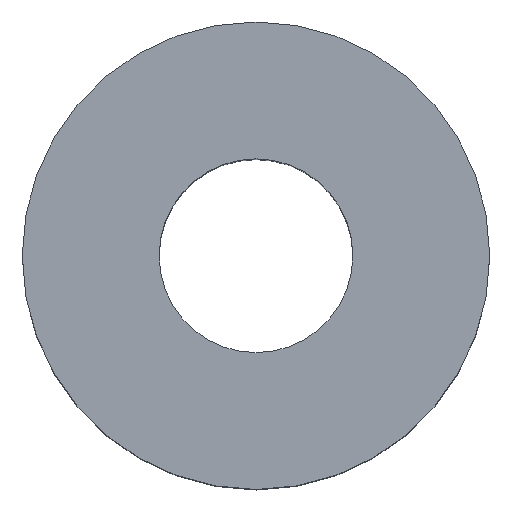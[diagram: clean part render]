
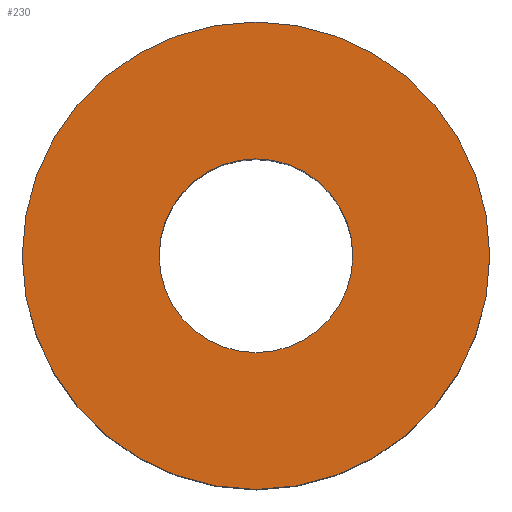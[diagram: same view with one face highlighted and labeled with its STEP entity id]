
A CAD part, top view. The second image highlights one B-rep face of the part: STEP entity #230.
In plain terms, the highlighted planar face has unit normal (0, 0, 1).
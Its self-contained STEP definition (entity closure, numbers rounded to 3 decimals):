
#18=PLANE('',#275);
#25=FACE_BOUND('',#65,.T.);
#28=CIRCLE('',#259,3.025);
#36=CIRCLE('',#274,7.3);
#47=FACE_OUTER_BOUND('',#64,.T.);
#64=EDGE_LOOP('',(#209));
#65=EDGE_LOOP('',(#210));
#111=VERTEX_POINT('',#505);
#119=VERTEX_POINT('',#533);
#137=EDGE_CURVE('',#111,#111,#28,.T.);
#150=EDGE_CURVE('',#119,#119,#36,.T.);
#209=ORIENTED_EDGE('',*,*,#150,.T.);
#210=ORIENTED_EDGE('',*,*,#137,.T.);
#230=ADVANCED_FACE('',(#47,#25),#18,.T.);
#259=AXIS2_PLACEMENT_3D('',#507,#291,#292);
#274=AXIS2_PLACEMENT_3D('',#535,#326,#327);
#275=AXIS2_PLACEMENT_3D('',#536,#328,#329);
#291=DIRECTION('center_axis',(0.,0.,-1.));
#292=DIRECTION('ref_axis',(-1.,0.,0.));
#326=DIRECTION('center_axis',(0.,0.,1.));
#327=DIRECTION('ref_axis',(1.,0.,0.));
#328=DIRECTION('center_axis',(0.,0.,1.));
#329=DIRECTION('ref_axis',(1.,0.,0.));
#505=CARTESIAN_POINT('',(3.025,0.,0.));
#507=CARTESIAN_POINT('Origin',(0.,0.,0.));
#533=CARTESIAN_POINT('',(-7.3,0.,0.));
#535=CARTESIAN_POINT('Origin',(0.,0.,0.));
#536=CARTESIAN_POINT('Origin',(0.,0.,0.));
